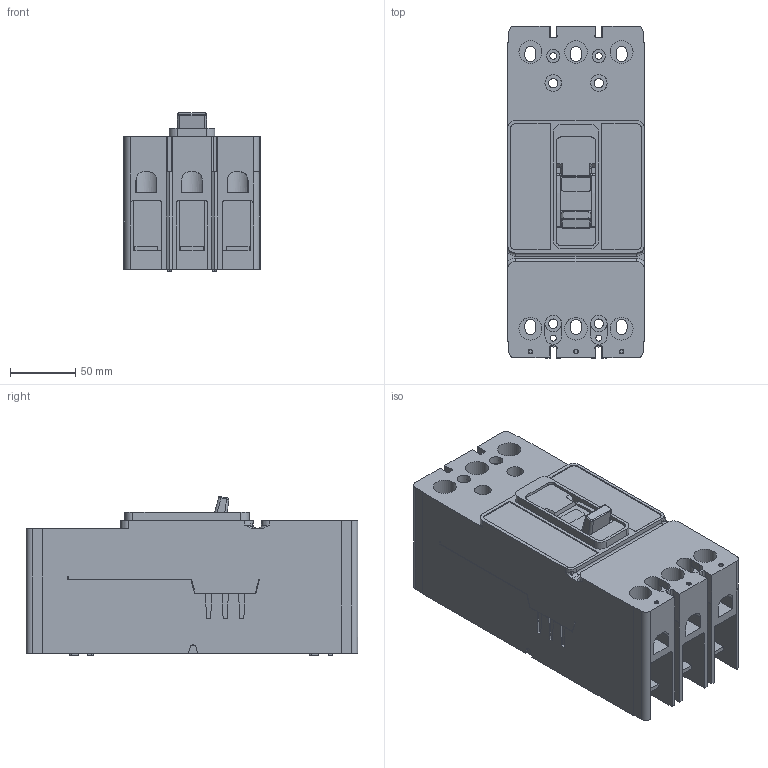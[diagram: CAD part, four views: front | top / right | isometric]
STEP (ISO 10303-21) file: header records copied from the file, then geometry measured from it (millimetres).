
FILE_DESCRIPTION((''),'2;1');
FILE_NAME('C:\temp\JDB3_.stp','2015-11-02T10:22:51',('e9952678'),(''),'Autodesk Inventor 2013','Autodesk Inventor 2013','');
FILE_SCHEMA(('AUTOMOTIVE_DESIGN { 1 0 10303 214 1 1 1 1 }'));
Length unit declared in the file: inch
Products named in the file (1): JDB3_
Bounding box: 104.78 x 254 x 121.44 mm (x, y, z)
Volume: 2180870 mm3; surface area: 228765.5 mm2
Topology: 1 solids, 7 shells, 892 faces, 2455 edges, 1622 vertices
Faces by surface type: plane 685, cylinder 193, cone 6, bspline 4, torus 4
Full cylindrical faces by diameter (mm): 2.794 x3, 3.556 x3, 4.572 x2, 5.08 x2, 5.156 x3, 5.309 x4, 5.563 x4, 6.35 x7, 6.756 x3, 7.137 x4, 7.925 x6, 8.077 x2, 10.033 x2, 10.16 x3, 12.7 x6, 17.475 x12
Entity records: 28807 total; most frequent: CARTESIAN_POINT 5220, ORIENTED_EDGE 4696, DIRECTION 4556, EDGE_CURVE 2348, VECTOR 1834, LINE 1834, VERTEX_POINT 1587, AXIS2_PLACEMENT_3D 1361
